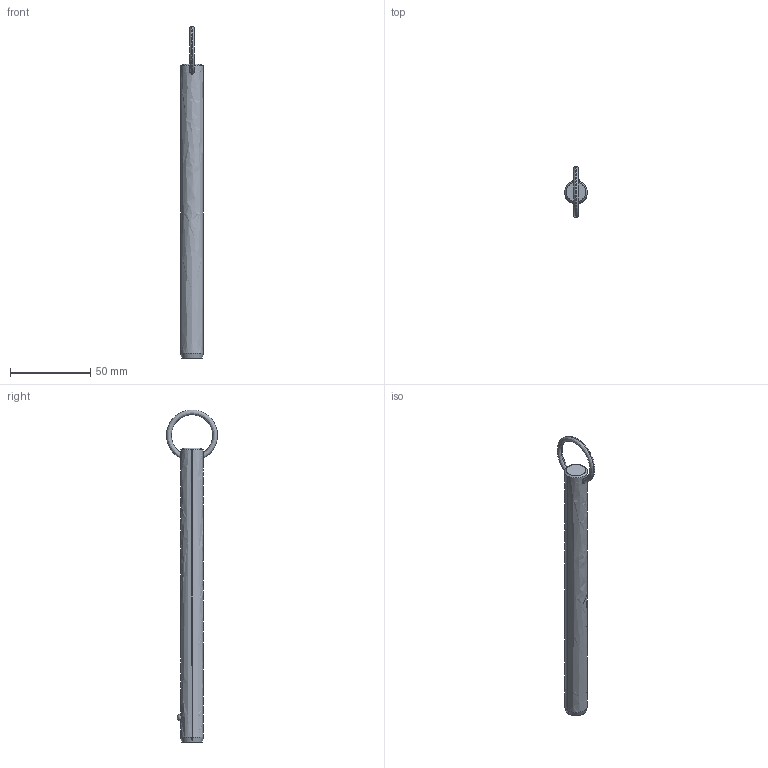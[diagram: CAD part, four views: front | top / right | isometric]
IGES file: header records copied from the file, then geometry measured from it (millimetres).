
Start section: SolidWorks IGES file using analytic representation for surfaces
Global section: file name: C:\Users\liam_\OneDrive\Documents\WORK\Work for WixRoyd\Job Files\J-00019 - Matt Davis CAD Checking\04. CAD Drawings\automotion20190605\P1250.2_v2\P1250.2_v2_20190729_IGES\P1250.056-620.igs; native system: SolidWorks 2017; preprocessor: SolidWorks 2017; author: liam_; date: 190729.232729; units: millimetre
Bounding box: 14.2 x 31.69 x 206.6 mm (x, y, z)
Surface area: 9120.7 mm2 (no closed solid volume)
Topology: 0 solids, 0 shells, 12 faces, 285 edges, 283 vertices
Faces by surface type: revolution 8, bspline 4
